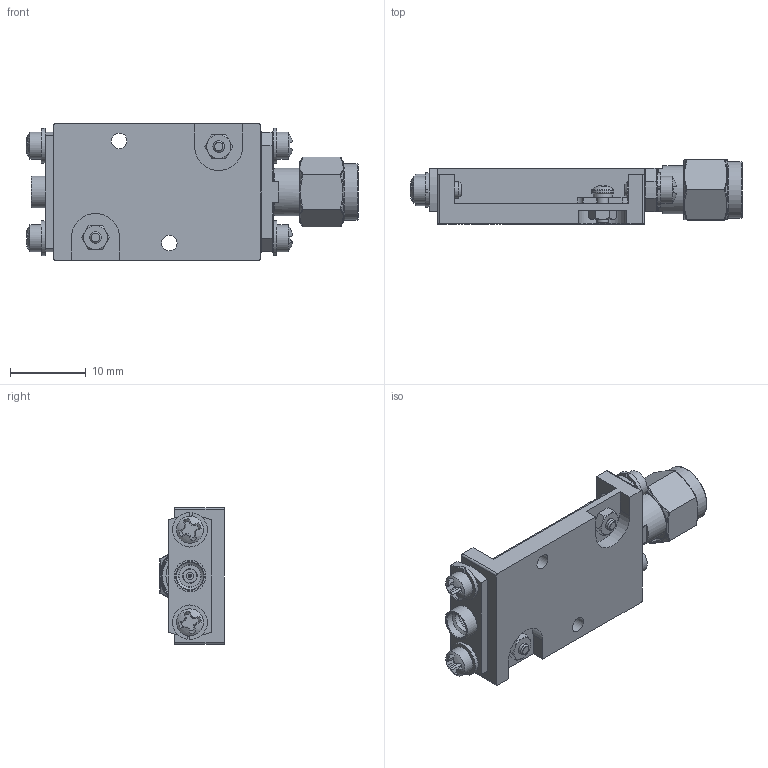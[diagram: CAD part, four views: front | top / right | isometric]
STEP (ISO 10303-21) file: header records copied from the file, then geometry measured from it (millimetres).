
FILE_DESCRIPTION (( 'STEP AP214' ), '1' );
FILE_NAME ('PE2-25-200M18-3D5-25-SMP-HERM.STEP', '2026-07-28T12:23:58', ( '' ), ( '' ), 'SwSTEP 2.0', 'SolidWorks 2025', '' );
FILE_SCHEMA (( 'AUTOMOTIVE_DESIGN' ));
Length unit declared in the file: inch
Products named in the file (1): PE2-25-200M18-3D5-25-SMP-HERM
Bounding box: 43.79 x 8.46 x 18.03 mm (x, y, z)
Volume: 3237.9 mm3; surface area: 5102.4 mm2
Topology: 27 solids, 27 shells, 806 faces, 2642 edges, 2022 vertices
Faces by surface type: plane 405, cylinder 180, cone 80, torus 64, bspline 43, sphere 34
Full cylindrical faces by diameter (mm): 0.305 x4, 0.508 x1, 0.635 x2, 0.711 x2, 0.762 x1, 0.914 x1, 1.016 x1, 1.18 x6, 1.295 x1, 1.524 x10, 1.6 x2, 1.702 x2, 1.93 x3, 1.943 x1, 1.956 x1, 2.007 x2, 2.057 x2, 2.184 x8, 2.515 x2, 2.616 x2, 2.642 x2, 2.896 x2, 2.946 x3, 3.175 x2, 3.556 x4, 3.607 x1, 3.937 x1, 4.166 x1, 4.572 x1, 4.597 x1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
Entity records: 44586 total; most frequent: CARTESIAN_POINT 11900, ORIENTED_EDGE 4834, DIRECTION 4112, EDGE_CURVE 2417, VERTEX_POINT 1979, AXIS2_PLACEMENT_3D 1466, LINE 1180, VECTOR 1180
